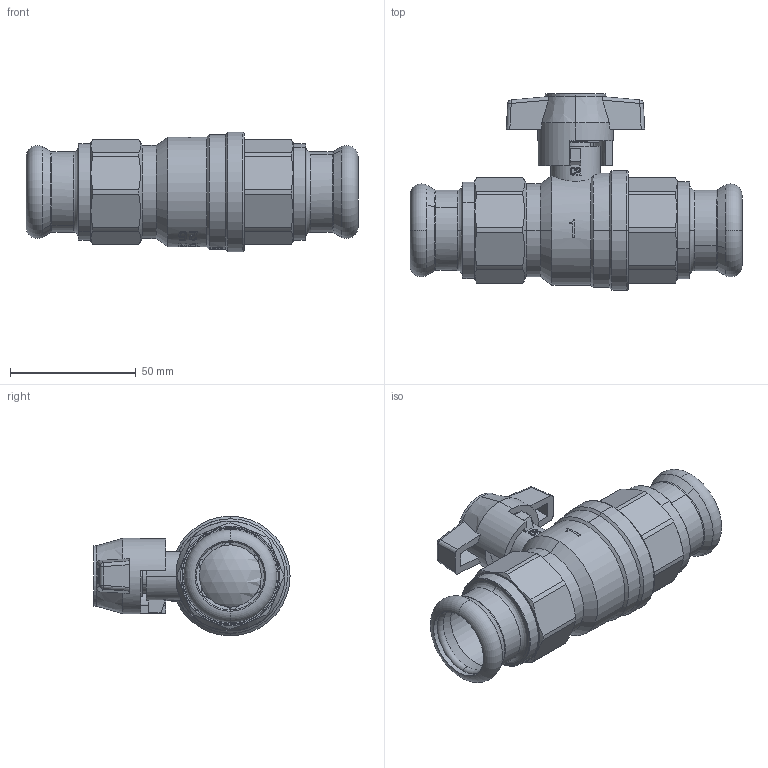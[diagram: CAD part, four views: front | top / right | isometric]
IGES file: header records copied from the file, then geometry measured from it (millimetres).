
Global section: file name: No Iges File Name specified; native system: AutoDesk Inventor R12.0; preprocessor: AutoDesk Inventor Iges Exporter R12.0; date: 20111130.113827; units: millimetre
Bounding box: 132 x 77.95 x 47.5 mm (x, y, z)
Volume: 62327 mm3; surface area: 57195.8 mm2
Topology: 1 solids, 9 shells, 712 faces, 2126 edges, 1483 vertices
Faces by surface type: plane 247, bspline 137, revolution 119, cylinder 89, cone 81, torus 30, sphere 9
